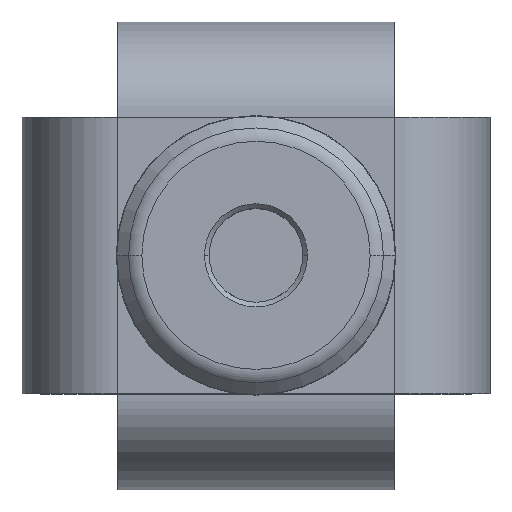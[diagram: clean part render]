
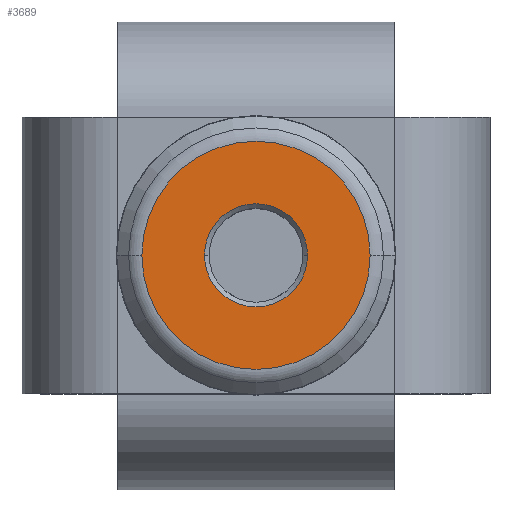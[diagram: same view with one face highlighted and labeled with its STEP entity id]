
A CAD part, top view. The second image highlights one B-rep face of the part: STEP entity #3689.
In plain terms, the highlighted planar face has unit normal (0, 0, 1).
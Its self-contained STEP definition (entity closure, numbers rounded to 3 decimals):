
#1 = EDGE_CURVE ( 'NONE', #3013, #4709, #4394, .T. ) ;
#67 = CARTESIAN_POINT ( 'NONE',  ( 0., 0., 29.5 ) ) ;
#73 = DIRECTION ( 'NONE',  ( 0., 0., -1. ) ) ;
#74 = DIRECTION ( 'NONE',  ( 1., 0., 0. ) ) ;
#797 = CARTESIAN_POINT ( 'NONE',  ( 0., 0., 29.5 ) ) ;
#798 = DIRECTION ( 'NONE',  ( 0., 0., -1. ) ) ;
#799 = DIRECTION ( 'NONE',  ( -1., 0., 0. ) ) ;
#1005 = EDGE_CURVE ( 'NONE', #4854, #3017, #1533, .T. ) ;
#1080 = AXIS2_PLACEMENT_3D ( 'NONE', #2390, #2389, #2385 ) ;
#1097 = AXIS2_PLACEMENT_3D ( 'NONE', #67, #73, #74 ) ;
#1533 = CIRCLE ( 'NONE', #1097, 12.172 ) ;
#1753 = EDGE_CURVE ( 'NONE', #4709, #3013, #3774, .T. ) ;
#2158 = AXIS2_PLACEMENT_3D ( 'NONE', #797, #798, #799 ) ;
#2226 = AXIS2_PLACEMENT_3D ( 'NONE', #3549, #3554, #3555 ) ;
#2265 = AXIS2_PLACEMENT_3D ( 'NONE', #2676, #2677, #2678 ) ;
#2385 = DIRECTION ( 'NONE',  ( -1., 0., 0. ) ) ;
#2389 = DIRECTION ( 'NONE',  ( 0., 0., -1. ) ) ;
#2390 = CARTESIAN_POINT ( 'NONE',  ( 0., 0., 29.5 ) ) ;
#2613 = CARTESIAN_POINT ( 'NONE',  ( 5.5, 0., 29.5 ) ) ;
#2657 = CARTESIAN_POINT ( 'NONE',  ( 12.172, 0., 29.5 ) ) ;
#2676 = CARTESIAN_POINT ( 'NONE',  ( 0., 0., 29.5 ) ) ;
#2677 = DIRECTION ( 'NONE',  ( 0., 0., -1. ) ) ;
#2678 = DIRECTION ( 'NONE',  ( 1., 0., 0. ) ) ;
#2721 = FACE_OUTER_BOUND ( 'NONE', #4666, .T. ) ;
#2725 = CIRCLE ( 'NONE', #2265, 12.172 ) ;
#2794 = FACE_BOUND ( 'NONE', #4665, .T. ) ;
#2921 = ORIENTED_EDGE ( 'NONE', *, *, #1, .T. ) ;
#2922 = ORIENTED_EDGE ( 'NONE', *, *, #1005, .F. ) ;
#2924 = ORIENTED_EDGE ( 'NONE', *, *, #1753, .T. ) ;
#2935 = ORIENTED_EDGE ( 'NONE', *, *, #5160, .F. ) ;
#3013 = VERTEX_POINT ( 'NONE', #3185 ) ;
#3017 = VERTEX_POINT ( 'NONE', #3189 ) ;
#3185 = CARTESIAN_POINT ( 'NONE',  ( -5.5, 0., 29.5 ) ) ;
#3189 = CARTESIAN_POINT ( 'NONE',  ( -12.172, 0., 29.5 ) ) ;
#3549 = CARTESIAN_POINT ( 'NONE',  ( 0., 0., 29.5 ) ) ;
#3552 = PLANE ( 'NONE',  #2226 ) ;
#3554 = DIRECTION ( 'NONE',  ( 0., 0., -1. ) ) ;
#3555 = DIRECTION ( 'NONE',  ( 1., 0., 0. ) ) ;
#3689 = ADVANCED_FACE ( 'NONE', ( #2794, #2721 ), #3552, .F. ) ;
#3774 = CIRCLE ( 'NONE', #2158, 5.5 ) ;
#4394 = CIRCLE ( 'NONE', #1080, 5.5 ) ;
#4665 = EDGE_LOOP ( 'NONE', ( #2924, #2921 ) ) ;
#4666 = EDGE_LOOP ( 'NONE', ( #2922, #2935 ) ) ;
#4709 = VERTEX_POINT ( 'NONE', #2613 ) ;
#4854 = VERTEX_POINT ( 'NONE', #2657 ) ;
#5160 = EDGE_CURVE ( 'NONE', #3017, #4854, #2725, .T. ) ;
